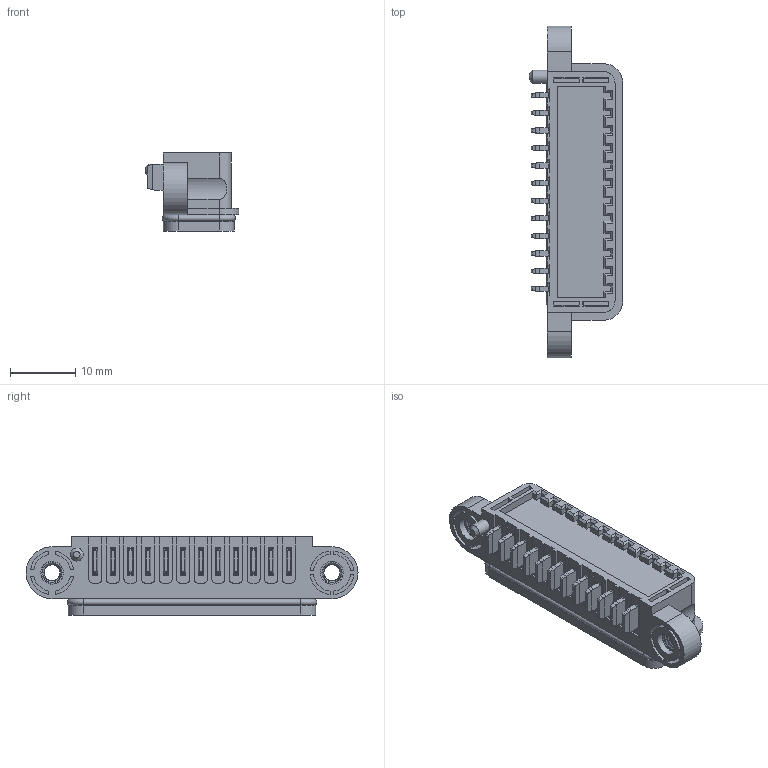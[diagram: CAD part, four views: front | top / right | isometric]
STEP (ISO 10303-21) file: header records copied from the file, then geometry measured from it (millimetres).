
FILE_DESCRIPTION(/* description */ (''),/* implementation_level */ '2;1');
FILE_NAME(/* name */ '3D_PDC6810C0001石头档(A0)-20250821.stp',/* time_stamp */ '2025-08-21T17:49:12+08:00',/* author */ (''),/* organization */ (''),/* preprocessor_version */ 'ST-DEVELOPER v16.7',/* originating_system */ 'SIEMENS PLM Software NX 1946',/* authorisation */ '');
FILE_SCHEMA (('AP203_CONFIGURATION_CONTROLLED_3D_DESIGN_OF_MECHANICAL_PARTS_AND_ASSEMBLIES_MIM_LF { 1 0 10303 403 2 1 2}'));
Length unit declared in the file: millimetre
Products named in the file (1): _model1
Bounding box: 14.4 x 51 x 12 mm (x, y, z)
Volume: 3716.7 mm3; surface area: 5753 mm2
Topology: 1 solids, 1 shells, 1617 faces, 4526 edges, 2976 vertices
Faces by surface type: plane 1038, cylinder 512, extrusion 36, cone 23, torus 4, bspline 4
Full cylindrical faces by diameter (mm): 2 x1, 3.5 x2, 6.1 x2, 6.2 x2
Entity records: 55917 total; most frequent: CARTESIAN_POINT 13805, ORIENTED_EDGE 9004, DIRECTION 8391, EDGE_CURVE 4502, VECTOR 3209, LINE 3173, VERTEX_POINT 2967, AXIS2_PLACEMENT_3D 2591
